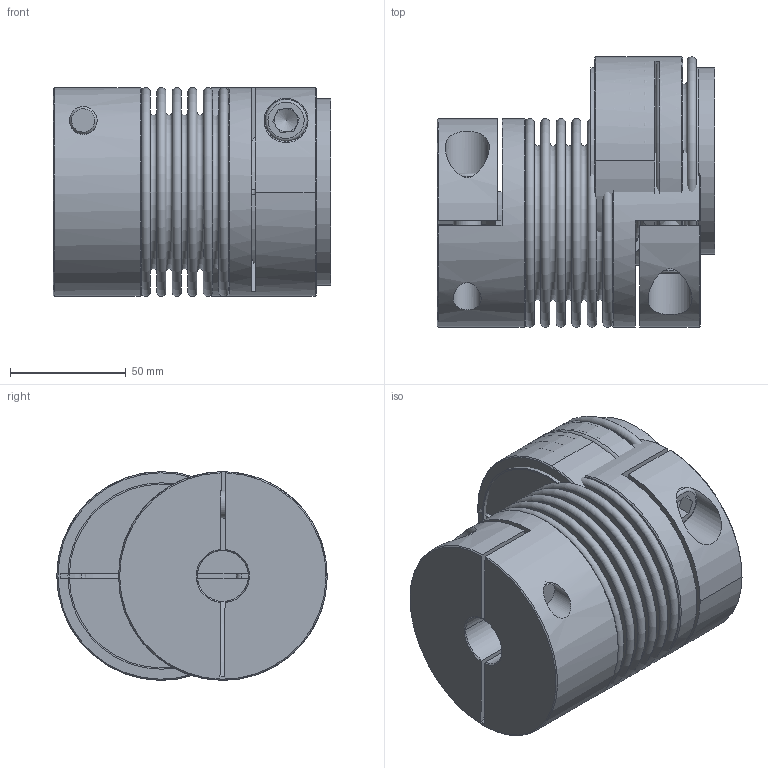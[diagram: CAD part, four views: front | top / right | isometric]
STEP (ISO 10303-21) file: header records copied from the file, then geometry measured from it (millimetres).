
FILE_DESCRIPTION( ( 'Unknown' ), '1' );
FILE_NAME( 'C:/Dokumente und Einstellungen/Sven/Desktop/cad - homepage/KB4/KB4-200-113.stp', 'Unknown', ( 'Unknown' ), ( 'Unknown' ), 'XStep 1.0', 'Unknown', ' ' );
FILE_SCHEMA( ( 'automotive_design' ) );
Length unit declared in the file: millimetre
Products named in the file (4): Assem1; KN200_Standard_0; Socket Head Cap Screw_DIN_DIN 912 M12 x 35 --- 35N_0; BL200_Standard
Bounding box: 119.8 x 116.61 x 90 mm (x, y, z)
Volume: 691759.5 mm3; surface area: 277308.8 mm2
Topology: 8 solids, 8 shells, 239 faces, 485 edges, 313 vertices
Faces by surface type: plane 124, torus 56, cylinder 41, cone 18
Full cylindrical faces by diameter (mm): 12 x6, 12.5 x3, 18 x3, 19 x3, 22 x3, 79.2 x4, 80.4 x4, 90 x3
Entity records: 2632 total; most frequent: CARTESIAN_POINT 552, DIRECTION 421, ORIENTED_EDGE 274, AXIS2_PLACEMENT_3D 191, EDGE_LOOP 170, EDGE_CURVE 137, FACE_OUTER_BOUND 134, VERTEX_POINT 114
